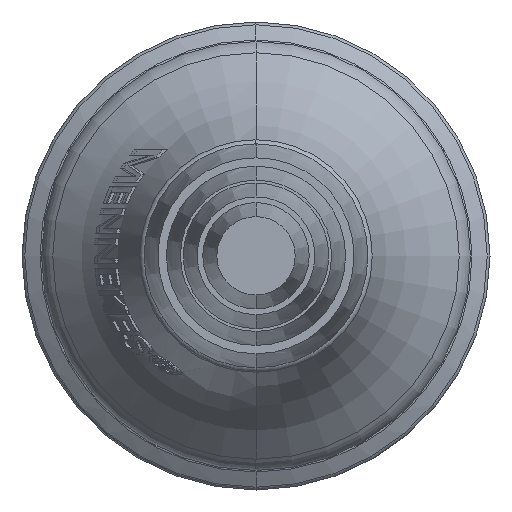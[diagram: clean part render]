
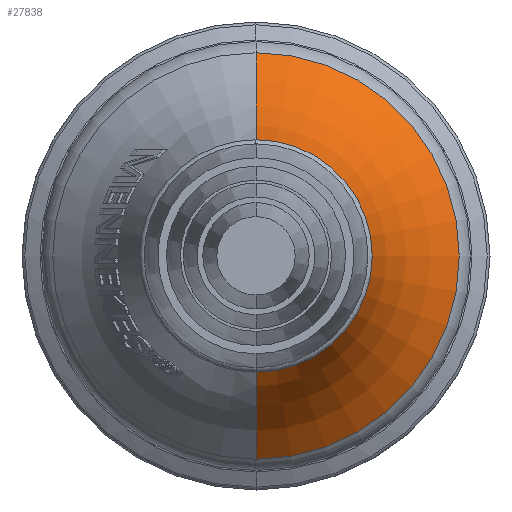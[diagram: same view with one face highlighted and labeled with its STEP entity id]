
A CAD part, front view. The second image highlights one B-rep face of the part: STEP entity #27838.
In plain terms, the highlighted toroidal (fillet/blend) face has major radius 33.381 mm and minor radius 24 mm.
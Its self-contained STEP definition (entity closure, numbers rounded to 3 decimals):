
#7270=CARTESIAN_POINT('',(0.,-64.399,-33.398));
#7271=DIRECTION('',(-1.,0.,0.));
#7272=DIRECTION('',(0.,0.286,0.958));
#7273=AXIS2_PLACEMENT_3D('',#7270,#7271,#7272);
#7280=CARTESIAN_POINT('',(0.,-64.399,33.364));
#7281=DIRECTION('',(1.,0.,0.));
#7282=DIRECTION('',(0.,0.286,-0.958));
#7283=AXIS2_PLACEMENT_3D('',#7280,#7281,#7282);
#8119=CARTESIAN_POINT('',(0.,-57.536,-0.017));
#8120=DIRECTION('',(0.,1.,0.));
#8121=DIRECTION('',(0.,0.,1.));
#8122=AXIS2_PLACEMENT_3D('',#8119,#8120,#8121);
#8124=CARTESIAN_POINT('',(0.,-45.848,-0.017));
#8125=DIRECTION('',(0.,1.,0.));
#8126=DIRECTION('',(0.,0.,1.));
#8127=AXIS2_PLACEMENT_3D('',#8124,#8125,#8126);
#13122=CARTESIAN_POINT('',(0.,-45.848,18.136));
#13123=CARTESIAN_POINT('',(0.,-45.848,-18.171));
#13124=VERTEX_POINT('',#13122);
#13125=VERTEX_POINT('',#13123);
#13500=CARTESIAN_POINT('',(0.,-57.536,10.366));
#13501=CARTESIAN_POINT('',(0.,-57.536,-10.401));
#13502=VERTEX_POINT('',#13500);
#13503=VERTEX_POINT('',#13501);
#27826=CARTESIAN_POINT('',(0.,-64.399,-0.017));
#27827=DIRECTION('',(0.,1.,0.));
#27828=DIRECTION('',(0.,0.,1.));
#27829=AXIS2_PLACEMENT_3D('',#27826,#27827,#27828);
#27830=TOROIDAL_SURFACE('41',#27829,33.381,24.);
#27831=ORIENTED_EDGE('1369',*,*,#27813,.F.);
#27832=ORIENTED_EDGE('1373',*,*,#27292,.T.);
#27834=ORIENTED_EDGE('966',*,*,#27833,.T.);
#27835=ORIENTED_EDGE('1374',*,*,#27289,.F.);
#27836=EDGE_LOOP('41',(#27831,#27832,#27834,#27835));
#27837=FACE_OUTER_BOUND('41',#27836,.F.);
#7274=CIRCLE('1374',#7273,24.);
#7284=CIRCLE('1373',#7283,24.);
#8123=CIRCLE('1369',#8122,10.383);
#8128=CIRCLE('966',#8127,18.153);
#27289=EDGE_CURVE('1374',#13503,#13125,#7274,.T.);
#27292=EDGE_CURVE('1373',#13502,#13124,#7284,.T.);
#27813=EDGE_CURVE('1369',#13502,#13503,#8123,.T.);
#27833=EDGE_CURVE('966',#13124,#13125,#8128,.T.);
#27838=ADVANCED_FACE('41',(#27837),#27830,.F.);
